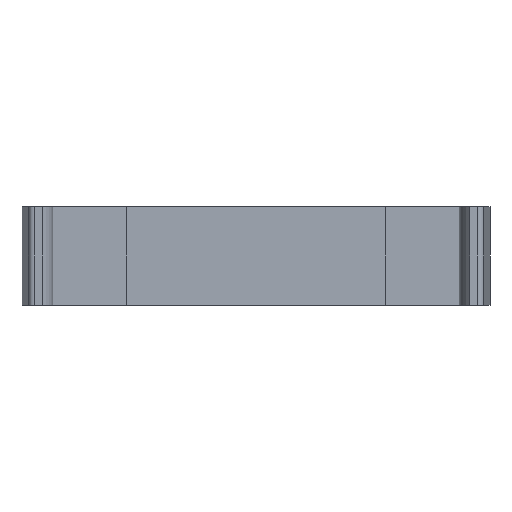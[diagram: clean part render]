
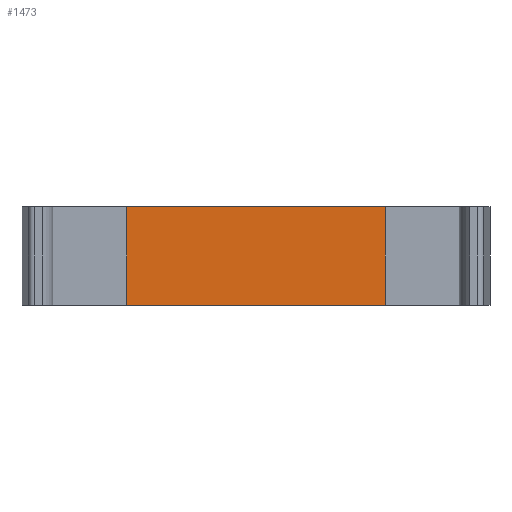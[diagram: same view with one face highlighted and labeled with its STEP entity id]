
A CAD part, front view. The second image highlights one B-rep face of the part: STEP entity #1473.
In plain terms, the highlighted planar face has unit normal (0, -1, 0).
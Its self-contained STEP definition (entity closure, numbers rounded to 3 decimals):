
#44=PLANE('',#1600);
#109=FACE_OUTER_BOUND('',#191,.T.);
#191=EDGE_LOOP('',(#1199,#1200,#1201,#1202));
#295=LINE('',#2213,#475);
#306=LINE('',#2241,#486);
#339=LINE('',#2321,#519);
#347=LINE('',#2340,#527);
#475=VECTOR('',#1778,10.);
#486=VECTOR('',#1805,10.);
#519=VECTOR('',#1860,10.);
#527=VECTOR('',#1884,10.);
#693=VERTEX_POINT('',#2210);
#694=VERTEX_POINT('',#2212);
#703=VERTEX_POINT('',#2240);
#739=VERTEX_POINT('',#2320);
#850=EDGE_CURVE('',#693,#694,#295,.T.);
#864=EDGE_CURVE('',#694,#703,#306,.T.);
#905=EDGE_CURVE('',#703,#739,#339,.T.);
#915=EDGE_CURVE('',#693,#739,#347,.T.);
#1199=ORIENTED_EDGE('',*,*,#864,.F.);
#1200=ORIENTED_EDGE('',*,*,#850,.F.);
#1201=ORIENTED_EDGE('',*,*,#915,.T.);
#1202=ORIENTED_EDGE('',*,*,#905,.F.);
#1473=ADVANCED_FACE('',(#109),#44,.T.);
#1600=AXIS2_PLACEMENT_3D('',#2339,#1882,#1883);
#1778=DIRECTION('',(1.,0.,0.));
#1805=DIRECTION('',(0.,0.,-1.));
#1860=DIRECTION('',(-1.,0.,0.));
#1882=DIRECTION('center_axis',(0.,-1.,0.));
#1883=DIRECTION('ref_axis',(1.,0.,0.));
#1884=DIRECTION('',(0.,0.,-1.));
#2210=CARTESIAN_POINT('',(-12.75,-6.,8.));
#2212=CARTESIAN_POINT('',(12.75,-6.,8.));
#2213=CARTESIAN_POINT('',(-12.75,-6.,8.));
#2240=CARTESIAN_POINT('',(12.75,-6.,0.));
#2241=CARTESIAN_POINT('',(12.75,-6.,8.));
#2320=CARTESIAN_POINT('',(-12.75,-6.,0.));
#2321=CARTESIAN_POINT('',(6.375,-6.,0.));
#2339=CARTESIAN_POINT('Origin',(-12.75,-6.,0.));
#2340=CARTESIAN_POINT('',(-12.75,-6.,8.));
